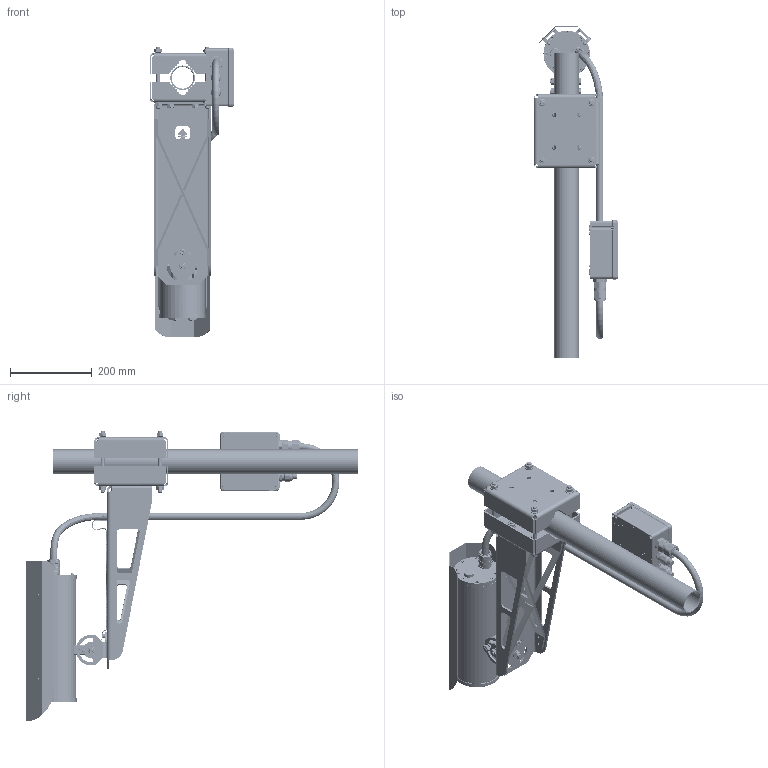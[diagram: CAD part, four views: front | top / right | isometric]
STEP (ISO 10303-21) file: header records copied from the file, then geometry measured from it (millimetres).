
FILE_DESCRIPTION(/* description */ (''),/* implementation_level */ '2;1');
FILE_NAME(/* name */ 'C:\Users\Sebastian Weber\Desktop\T08-VA2.3.K3.BOR3_full mount assembly_rev.stp',/* time_stamp */ '2018-11-05T14:07:49+01:00',/* author */ ('Sebastian Weber'),/* organization */ (''),/* preprocessor_version */ 'ST-DEVELOPER v17',/* originating_system */ 'Autodesk Inventor 2018',/* authorisation */ '');
FILE_SCHEMA (('CONFIG_CONTROL_DESIGN'));
Length unit declared in the file: millimetre
Products named in the file (74): T08-VA2.3.K3.BOR3_full mount assembly_rev.00; PMB-XL_rev.00 (Mastmontageadapter T08-WMB); Gewindestange M10x1,5x125; WMB-VA2.3_bare_rev.03; WMB-VA2.3_bare_rev.03_1; WMB-VA2.3_Ausleger_rev.03_ver.01; WMB-VA2.3_bare_rev.03_Rippe links; WMB-VA2.3_bare_rev.03_Rippe rechts; WMB-VA2.3_gabel_rev.01; ISO 4017 - M10 x 70; ISO 4017 - M10 x 25; DIN 912 - M8 x 16; DIN 125 - A 10,5; DIN 125 - A 8,4; ISO 4032 - M10; T07-VA2.3.K3.BOR2+WPR_wiper; WPR-VA2.3_Halterung_wiper_left_rev.02; VA2.2 - Wetterschutzdach; WPR-VA2.3_Halterung_wiper_right_rev.02; ISO 7380-1 - M3 x 6; 8118 Gr.3; 8118 Gr.3_1; Deckel 8118 Gr.3; Hutschiene 12cm; ISO 7380-1 - M4 x 8; pxc_3209536_15_PT-2-5-PE_3D; PT_2.5_PE-select; pxc_3030417_05_D-ST-2-5_3D; D-ST25-Select; pxc_3022276_04_CLIPFIX-35-5_3D; clipfix_35_5-select; pxc_3209510_16_PT-2-5_3D; PT_2.5-select; AS 1427 - M4 x 20; ZB_4_CUS_1; ZB_4_CUS_2; ZB_4_CUS_3_; ZB_4_CUS_4_; ZB_4_CUS_5_; ZB_4_CUS_6_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
Assembly tree (167 placements, depth 5):
  T08-VA2.3.K3.BOR3_full mount assembly_rev.00
    PMB-XL_rev.00 (Mastmontageadapter T08-WMB)
      #280348  x2
      ISO 4017 - M10 x 25  x4
      DIN 125 - A 10,5  x16
      ISO 4032 - M10  x12
      Gewindestange M10x1,5x125  x4
    WMB-VA2.3_bare_rev.03
      WMB-VA2.3_bare_rev.03_1
      WMB-VA2.3_Ausleger_rev.03_ver.01
      WMB-VA2.3_bare_rev.03_Rippe links
      WMB-VA2.3_bare_rev.03_Rippe rechts
      WMB-VA2.3_gabel_rev.01
      ISO 4017 - M10 x 70  x2
      ISO 4017 - M10 x 25
      DIN 912 - M8 x 16
      DIN 125 - A 10,5  x6
      DIN 125 - A 8,4
      ISO 4032 - M10  x3
    T07-VA2.3.K3.BOR2+WPR_wiper
      WPR-VA2.3_Halterung_wiper_left_rev.02
      VA2.2 - Wetterschutzdach
      WPR-VA2.3_Halterung_wiper_right_rev.02
      ISO 7380-1 - M4 x 8  x4
      ISO 7380-1 - M3 x 6  x4
    8118 Gr.3
      8118 Gr.3_1
      Deckel 8118 Gr.3
      Hutschiene 12cm
      ISO 7380-1 - M4 x 8  x2
      pxc_3022276_04_CLIPFIX-35-5_3D  x2
        clipfix_35_5-select
      pxc_3209536_15_PT-2-5-PE_3D  x3
        PT_2.5_PE-select
      pxc_3030417_05_D-ST-2-5_3D
        D-ST25-Select
      pxc_3209510_16_PT-2-5_3D  x10
        PT_2.5-select
      AS 1427 - M4 x 20  x4
      DIN 128 - A4  x4
      ZB_4_CUS_1
      ZB_4_CUS_2
      ZB_4_CUS_3_
      ZB_4_CUS_4_
      ZB_4_CUS_5_
      ZB_4_CUS_6_
      ZB_4_CUS_7_
      ZB_4_CUS_8_
      ZB_4_CUS_9_
      ZB_4_CUS_10_
      ZB_4_CUS_3PE_  x3
      KLE CMP-UK 20 C2K M20 (Ex e)
      8161-5-M20-13  x2
      Blindstopfen Capri KLE M20x1.5  x2
      Kontermutter M20x1,5 mit Krallen  x3
    Mast Messestand
    ASKDP02-T (WMB-VA2.3 Verbau)_ausgerichtet
    safety wire 2mmx750mm_ausgerichtet
    T07-VA2.3.K3.BOR3_(Serie)
      VA2.3.R_vers.1_rev.00_(mit Schweißnocken)
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Bounding box: 205.7 x 809.93 x 707.4 mm (x, y, z)
Volume: 3384146.1 mm3; surface area: 1812925.9 mm2
Topology: 178 solids, 178 shells, 12911 faces, 34103 edges, 22064 vertices
Faces by surface type: plane 6834, bspline 2688, cylinder 2248, cone 573, torus 454, sphere 114
Full cylindrical faces by diameter (mm): 2 x6, 2.459 x24, 2.5 x6, 3 x4, 3.197 x1, 3.2 x10, 3.242 x28, 3.571 x4, 3.621 x1, 3.8 x16, 4 x27, 4.2 x4, 4.3 x1, 4.5 x20, 5 x16, 5.7 x4, 6 x6, 6.647 x1, 7 x24, 7.6 x6, 8 x23, 8.2 x1, 8.376 x15, 8.4 x1, 9 x1, 10 x13, 10.2 x8, 10.5 x40, 11.5 x2, 12 x2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
Entity records: 280299 total; most frequent: CARTESIAN_POINT 109171, ORIENTED_EDGE 37278, DIRECTION 29515, EDGE_CURVE 18639, VERTEX_POINT 12148, LINE 11063, VECTOR 11063, AXIS2_PLACEMENT_3D 9226
